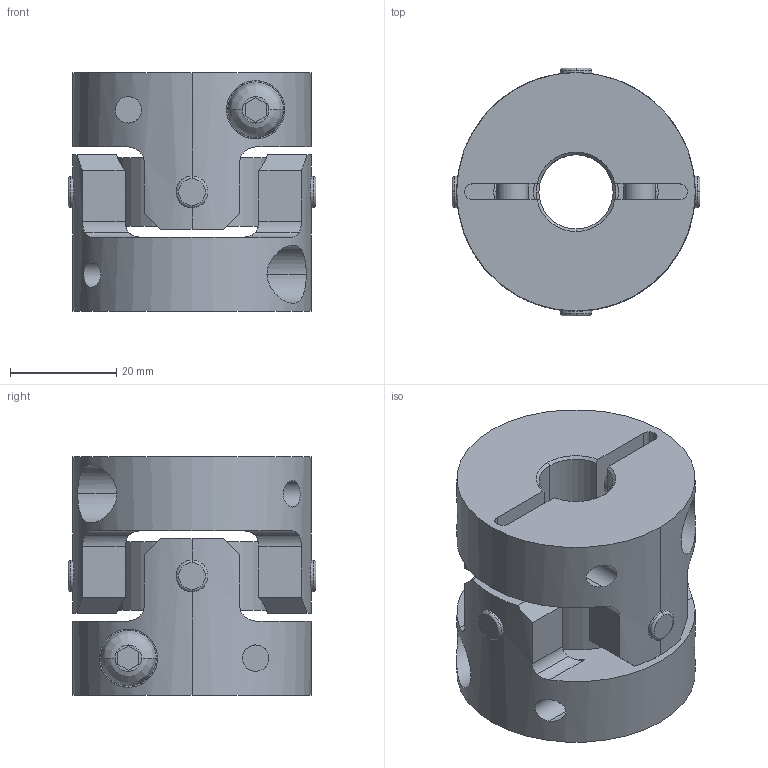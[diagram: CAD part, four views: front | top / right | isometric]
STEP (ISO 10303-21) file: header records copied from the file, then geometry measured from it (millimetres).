
FILE_DESCRIPTION((''),'2;1');
FILE_NAME('UA-45C-14×14.stp','2013-05-22T10:18:09',(''),(''),'AutoCAD STEP 2000i','AutoCAD 2000i',', , ');
FILE_SCHEMA(('CONFIG_CONTROL_DESIGN'));
Length unit declared in the file: millimetre
Products named in the file (6): UA-45C-8×8; 忣兜1; UA-4502-D08-1; BTN-M6; UA-4502-D08; UA45-SEN
Assembly tree (6 placements, depth 3):
  UA-45C-8×8
    忣兜1
    UA-4502-D08-1
      BTN-M6
    UA-4502-D08
      BTN-M6
    UA45-SEN
Bounding box: 46.73 x 46.73 x 45 mm (x, y, z)
Volume: 49295 mm3; surface area: 20179.4 mm2
Topology: 1 solids, 1 shells, 206 faces, 554 edges, 364 vertices
Faces by surface type: cylinder 96, plane 78, cone 16, bspline 8, torus 8
Entity records: 8523 total; most frequent: CARTESIAN_POINT 3207, ORIENTED_EDGE 1108, DIRECTION 1064, EDGE_CURVE 554, AXIS2_PLACEMENT_3D 409, VERTEX_POINT 364, VECTOR 246, LINE 246
